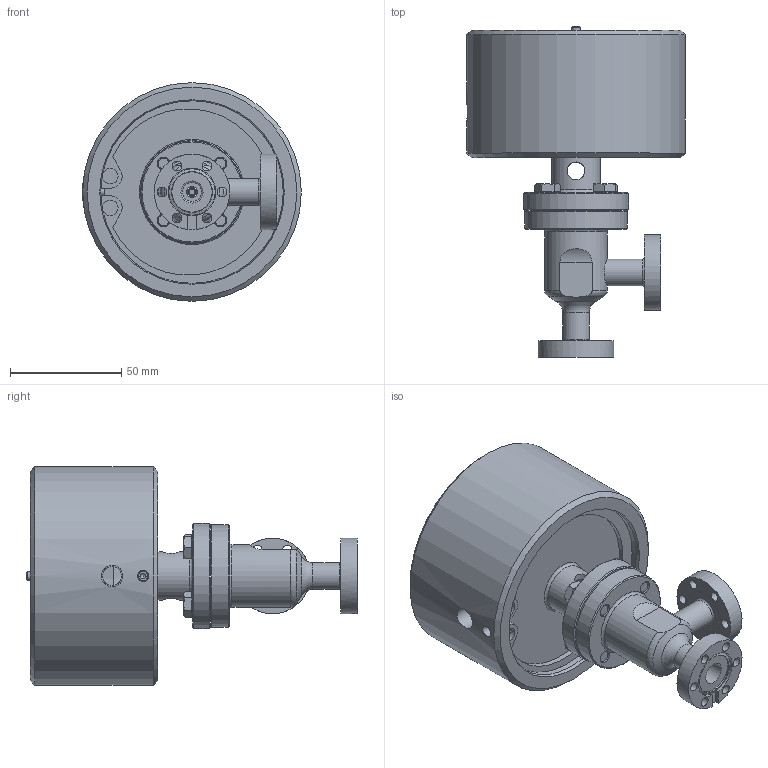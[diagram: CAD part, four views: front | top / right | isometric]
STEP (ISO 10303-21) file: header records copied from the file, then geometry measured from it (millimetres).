
FILE_DESCRIPTION(/* description */ (''),/* implementation_level */ '2;1');
FILE_NAME(/* name */ '1624316451_203.stp',/* time_stamp */ '2012-07-04T08:19:50+02:00',/* author */ (''),/* organization */ (''),/* preprocessor_version */ 'ST-DEVELOPER v11',/* originating_system */ 'SIEMENS PLM Software NX 7.5',/* authorisation */ '');
FILE_SCHEMA (('CONFIG_CONTROL_DESIGN'));
Length unit declared in the file: millimetre
Products named in the file (10): 258407.1; 260102.1; 313903.3; N-6203-082.1; N-6073-405.1; N-6071-452.1; 203117.2; 202851.1; 221205.2; 546548
Assembly tree (13 placements, depth 2):
  546548
    221205.2
    202851.1  x4
    203117.2
    N-6071-452.1
    N-6073-405.1
    N-6203-082.1
    313903.3
    260102.1  x2
    258407.1
Bounding box: 98.25 x 148.4 x 98.25 mm (x, y, z)
Volume: 304045.1 mm3; surface area: 95255.8 mm2
Topology: 23 solids, 23 shells, 305 faces, 665 edges, 424 vertices
Faces by surface type: plane 124, cylinder 111, cone 56, torus 14
Full cylindrical faces by diameter (mm): 2.5 x1, 3 x2, 3.26 x1, 3.3 x1, 3.5 x1, 4 x1, 4.16 x1, 4.2 x1, 4.3 x12, 4.96 x4, 5 x7, 6 x12, 6.4 x4, 7 x2, 8 x2, 8.4 x1, 8.566 x1, 9.333 x4, 9.728 x1, 10 x3, 11 x1, 12 x2, 12.15 x1, 12.55 x1, 15.05 x1, 16 x1, 18.25 x2, 20.75 x2, 20.8 x2, 20.95 x4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
Entity records: 6832 total; most frequent: CARTESIAN_POINT 1354, DIRECTION 929, ORIENTED_EDGE 666, AXIS2_PLACEMENT_3D 425, EDGE_LOOP 403, FACE_BOUND 348, EDGE_CURVE 333, VERTEX_POINT 276
